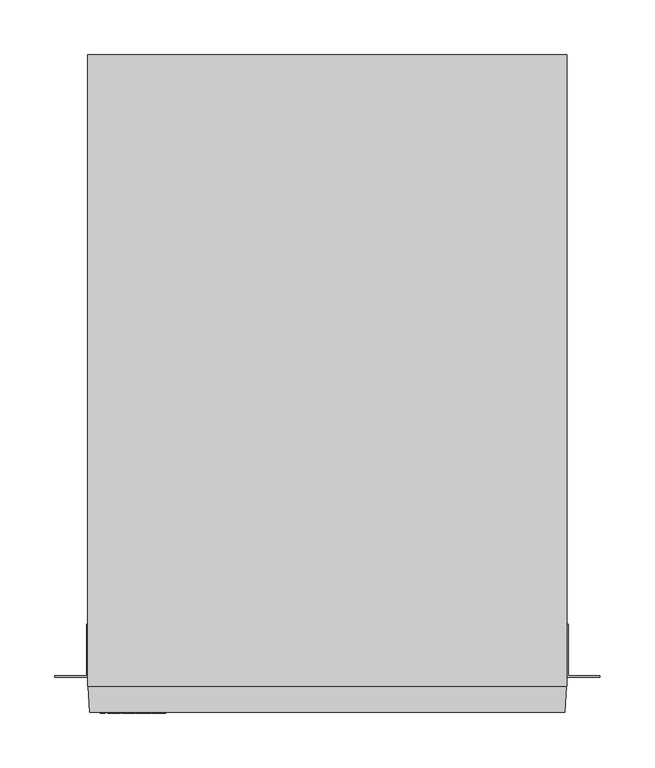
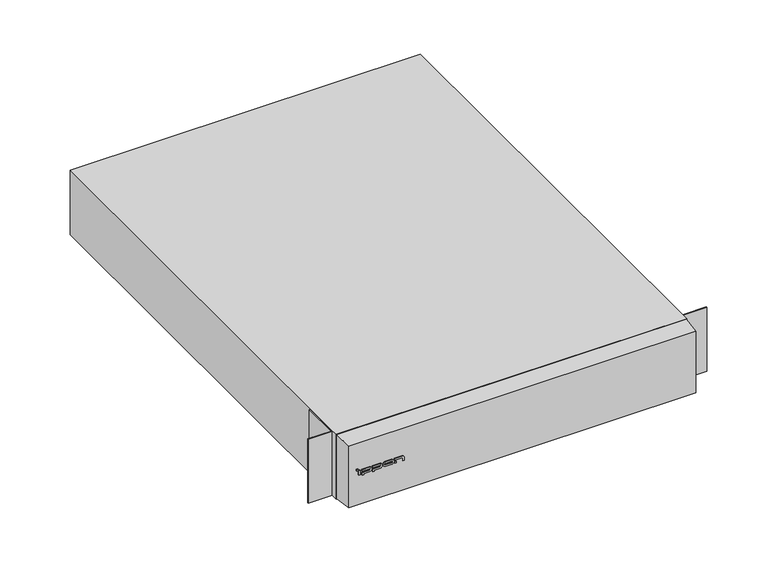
"""IFC4 building model written with IfcOpenShell, lengths in millimetres: proxy geometry, IPPON_EBM_Innova RT II_1000-1500_2000-3000ВА : EBM INNOVA RT II 2000/3000 ВА."""

from ifc_helpers import new_model, si_unit, point, frame, frame_2d, origin, place, context, project, spatial, polyline, circle_curve, trimmed, segment, composite_curve, outline, extrude, faceted_brep, source, transform, mapped, element, save


def electrical_equipment_1c29d455(model_context):
    return source(origin(), model_context, "Body", "SolidModel", [
        extrude(outline(polyline([(-205.6884808, -1.0), (-207.6884808, -1.0), (-207.6884808, 0.0), (-205.6884808, 0.0), (-205.6884808, -1.0)])), frame((0.0, 0.0, 49.6413968), z_axis=(0.0, 0.0, 1.0), x_axis=(1.0, 0.0, 0.0)), (0.0, 0.0, 1.0), 2.3),
        extrude(outline(polyline([(-157.9131202, -1.0), (-159.9131202, -1.0), (-159.9131202, 0.0), (-157.9131202, 0.0), (-157.9131202, -1.0)])), frame((0.0, 0.0, 43.6413968), z_axis=(0.0, 0.0, 1.0), x_axis=(1.0, 0.0, 0.0)), (0.0, 0.0, 1.0), 2.2268231),
        extrude(outline(polyline([(-202.9552326, -1.0), (-205.0, -1.0), (-205.0, 0.0), (-202.9552326, 0.0), (-202.9552326, -1.0)])), frame((0.0, 0.0, 43.6413968), z_axis=(0.0, 0.0, 1.0), x_axis=(1.0, 0.0, 0.0)), (0.0, 0.0, 1.0), 6.0),
        extrude(outline(composite_curve([segment(polyline([(47.3789568, -200.7407784), (47.3789568, -191.5090211)]), True, "CONTINUOUS"), segment(trimmed(circle_curve(frame_2d((46.5224775, -191.5090211)), 0.8564793), [point((47.3789568, -191.5090211))], [point((45.6659982, -191.5090211))], True, "CARTESIAN"), True, "CONTINUOUS"), segment(polyline([(45.6659982, -191.5090211), (45.6659982, -200.7407784), (42.1754936, -200.7407784), (42.1754936, -198.7407784), (43.6413968, -198.7407784), (43.6413968, -191.6652711)]), True, "CONTINUOUS"), segment(trimmed(circle_curve(frame_2d((46.6413968, -191.6652711)), 3.0), [point((43.6413968, -191.6652711))], [point((49.6413968, -191.6652711))], False, "CARTESIAN"), True, "CONTINUOUS"), segment(polyline([(49.6413968, -191.6652711), (49.6413968, -200.7407784), (47.3789568, -200.7407784)]), True, "CONTINUOUS")], self_intersect=False)), frame((0.0, -1.0, 0.0), z_axis=(0.0, 1.0, 0.0), x_axis=(0.0, 0.0, 1.0)), (0.0, 0.0, 1.0), 1.0),
        extrude(outline(composite_curve([segment(polyline([(47.3789568, -187.5337767), (47.3789568, -178.3020194)]), True, "CONTINUOUS"), segment(trimmed(circle_curve(frame_2d((46.5224775, -178.3020194)), 0.8564793), [point((47.3789568, -178.3020194))], [point((45.6659982, -178.3020194))], True, "CARTESIAN"), True, "CONTINUOUS"), segment(polyline([(45.6659982, -178.3020194), (45.6659982, -187.5337767), (42.1754936, -187.5337767), (42.1754936, -185.5337767), (43.6413968, -185.5337767), (43.6413968, -178.4582694)]), True, "CONTINUOUS"), segment(trimmed(circle_curve(frame_2d((46.6413968, -178.4582694)), 3.0), [point((43.6413968, -178.4582694))], [point((49.6413968, -178.4582694))], False, "CARTESIAN"), True, "CONTINUOUS"), segment(polyline([(49.6413968, -178.4582694), (49.6413968, -187.5337767), (47.3789568, -187.5337767)]), True, "CONTINUOUS")], self_intersect=False)), frame((0.0, -1.0, 0.0), z_axis=(0.0, 1.0, 0.0), x_axis=(0.0, 0.0, 1.0)), (0.0, 0.0, 1.0), 1.0),
        extrude(outline(composite_curve([segment(trimmed(circle_curve(frame_2d((46.6413968, -163.9580105)), 3.0), [point((43.6413968, -163.9580105))], [point((49.6413968, -163.9580105))], False, "CARTESIAN"), True, "CONTINUOUS"), segment(polyline([(49.6413968, -163.9580105), (49.6413968, -171.5580105)]), True, "CONTINUOUS"), segment(trimmed(circle_curve(frame_2d((46.6413968, -171.5580105)), 3.0), [point((49.6413968, -171.5580105))], [point((43.6413968, -171.5580105))], False, "CARTESIAN"), True, "CONTINUOUS"), segment(polyline([(43.6413968, -171.5580105), (43.6413968, -163.9580105)]), True, "CONTINUOUS")], self_intersect=False), holes=[composite_curve([segment(polyline([(45.6659982, -163.8017605), (45.6659982, -171.7142605)]), True, "CONTINUOUS"), segment(trimmed(circle_curve(frame_2d((46.5224775, -171.7142605)), 0.8564793), [point((45.6659982, -171.7142605))], [point((47.3789568, -171.7142605))], True, "CARTESIAN"), True, "CONTINUOUS"), segment(polyline([(47.3789568, -171.7142605), (47.3789568, -163.8017605)]), True, "CONTINUOUS"), segment(trimmed(circle_curve(frame_2d((46.5224775, -163.8017605)), 0.8564793), [point((47.3789568, -163.8017605))], [point((45.6659982, -163.8017605))], True, "CARTESIAN"), True, "CONTINUOUS")], self_intersect=False)]), frame((0.0, -1.0, 0.0), z_axis=(0.0, 1.0, 0.0), x_axis=(0.0, 0.0, 1.0)), (0.0, 0.0, 1.0), 1.0),
        extrude(outline(composite_curve([segment(polyline([(47.3789568, -159.9131202), (47.3789568, -150.6813629)]), True, "CONTINUOUS"), segment(trimmed(circle_curve(frame_2d((46.5224775, -150.6813629)), 0.8564793), [point((47.3789568, -150.6813629))], [point((46.5224775, -149.8248836))], True, "CARTESIAN"), True, "CONTINUOUS"), segment(polyline([(46.5224775, -149.8248836), (43.6413968, -149.8248836), (43.6413968, -147.8848755), (47.1718133, -147.8848755)]), True, "CONTINUOUS"), segment(trimmed(circle_curve(frame_2d((46.6413968, -150.8376129)), 3.0), [point((47.1718133, -147.8848755))], [point((49.6413968, -150.8376129))], False, "CARTESIAN"), True, "CONTINUOUS"), segment(polyline([(49.6413968, -150.8376129), (49.6413968, -159.9131202), (47.3789568, -159.9131202)]), True, "CONTINUOUS")], self_intersect=False)), frame((0.0, -1.0, 0.0), z_axis=(0.0, 1.0, 0.0), x_axis=(0.0, 0.0, 1.0)), (0.0, 0.0, 1.0), 1.0),
        faceted_brep([(217.0, 0.0, 4.0), (217.0, 0.0, 85.5), (-217.0, 0.0, 85.5), (-217.0, 0.0, 4.0), (218.4248599, 23.5101876, 2.5751401), (218.4248599, 23.5101876, 86.9248599), (-218.4248599, 23.5101876, 86.9248599), (-218.4248599, 23.5101876, 2.5751401), (219.0, 600.0, 87.5), (219.0, 600.0, 2.0), (-219.0, 600.0, 2.0), (-219.0, 600.0, 87.5), (219.0, 23.5101876, 87.5), (-219.0, 23.5101876, 87.5), (-219.0, 23.5101876, 2.0), (219.0, 23.5101876, 2.0), (-219.0, 33.0, 87.5), (219.0, 33.0, 87.5), (-219.0, 33.0, 2.0), (219.0, 33.0, 2.0)], [[[0, 1, 2, 3]], [[1, 0, 4, 5]], [[2, 1, 5, 6]], [[3, 2, 6, 7]], [[0, 3, 7, 4]], [[8, 9, 10, 11]], [[12, 13, 14, 15], [5, 4, 7, 6]], [[8, 11, 16, 13, 12, 17]], [[11, 10, 18, 14, 13, 16]], [[10, 9, 19, 15, 14, 18]], [[9, 8, 17, 12, 15, 19]]]),
        extrude(outline(polyline([(219.0, 32.0), (219.0, 80.0), (220.0, 80.0), (220.0, 33.0), (249.0, 33.0), (249.0, 32.0), (219.0, 32.0)])), frame((0.0, 0.0, 2.0), z_axis=(0.0, 0.0, 1.0), x_axis=(1.0, 0.0, 0.0)), (0.0, 0.0, 1.0), 84.5),
        extrude(outline(polyline([(-219.0, 32.0), (-249.0, 32.0), (-249.0, 33.0), (-220.0, 33.0), (-220.0, 80.0), (-219.0, 80.0), (-219.0, 32.0)])), frame((0.0, 0.0, 2.0), z_axis=(0.0, 0.0, 1.0), x_axis=(1.0, 0.0, 0.0)), (0.0, 0.0, 1.0), 84.5),
    ])


if __name__ == "__main__":
    model = new_model("IFC4")
    model_context = context("Model", 3, world=origin())
    ifc_project = project(units=[si_unit("LENGTHUNIT", "METRE", prefix="MILLI")], contexts=[model_context])
    site = spatial("IfcSite", under=ifc_project)
    building = spatial("IfcBuilding", under=site)
    placement = place(None, origin())
    electrical_equipment_shape = electrical_equipment_1c29d455(model_context)
    element("IfcBuildingElementProxy", 1, Name="IPPON_EBM_Innova RT II_1000-1500_2000-3000ВА : EBM INNOVA RT II 2000/3000 ВА", ObjectType="IPPON_EBM_Innova RT II_1000-1500_2000-3000ВА : EBM INNOVA RT II 2000/3000 ВА", at=placement, inside=building, context=model_context, shape_type="MappedRepresentation", body=[
        mapped(electrical_equipment_shape, transform((0.0, 0.0, 0.0), x_axis=(1.0, 0.0, 0.0), y_axis=(0.0, 1.0, 0.0), z_axis=(0.0, 0.0, 1.0))),
    ])
    save(model, "model.ifc")
